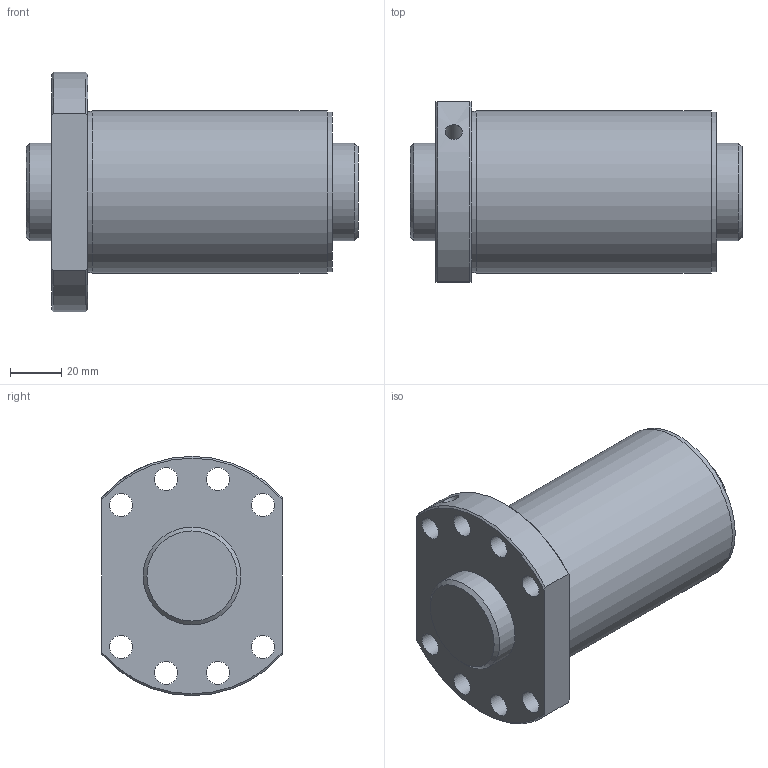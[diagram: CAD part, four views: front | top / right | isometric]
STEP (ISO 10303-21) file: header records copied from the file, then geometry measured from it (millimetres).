
FILE_DESCRIPTION(/* description */ ('STEP AP203'),/* implementation_level */ '2;1');
FILE_NAME(/* name */ 'SDA3825V-4G0+129LC0(0G000)',/* time_stamp */ '2024-05-28T11:41:39+02:00',/* author */ ('License CC BY-ND 4.0'),/* organization */ ('CADENAS'),/* preprocessor_version */ 'ST-DEVELOPER v19.3',/* originating_system */ 'PARTsolutions',/* authorisation */ ' ');
FILE_SCHEMA (('CONFIG_CONTROL_DESIGN'));
Length unit declared in the file: millimetre
Products named in the file (3): SDA3825V-4G0+129LC0(0G000); 000SDA3825V-40Shaft; SDA-V serieSDA3825V-4nut
Assembly tree (2 placements, depth 2):
  SDA3825V-4G0+129LC0(0G000)
    000SDA3825V-40Shaft
    SDA-V serieSDA3825V-4nut
Bounding box: 129 x 70 x 93 mm (x, y, z)
Volume: 391844.2 mm3; surface area: 65164.1 mm2
Topology: 2 solids, 2 shells, 33 faces, 75 edges, 49 vertices
Faces by surface type: cylinder 17, plane 9, cone 7
Full cylindrical faces by diameter (mm): 5.2 x1, 6.647 x1, 9 x8, 38 x2, 62 x1, 62.6 x1, 63 x1
Entity records: 983 total; most frequent: CARTESIAN_POINT 184, DIRECTION 156, ORIENTED_EDGE 112, EDGE_LOOP 74, FACE_BOUND 74, AXIS2_PLACEMENT_3D 74, EDGE_CURVE 56, VERTEX_POINT 48
